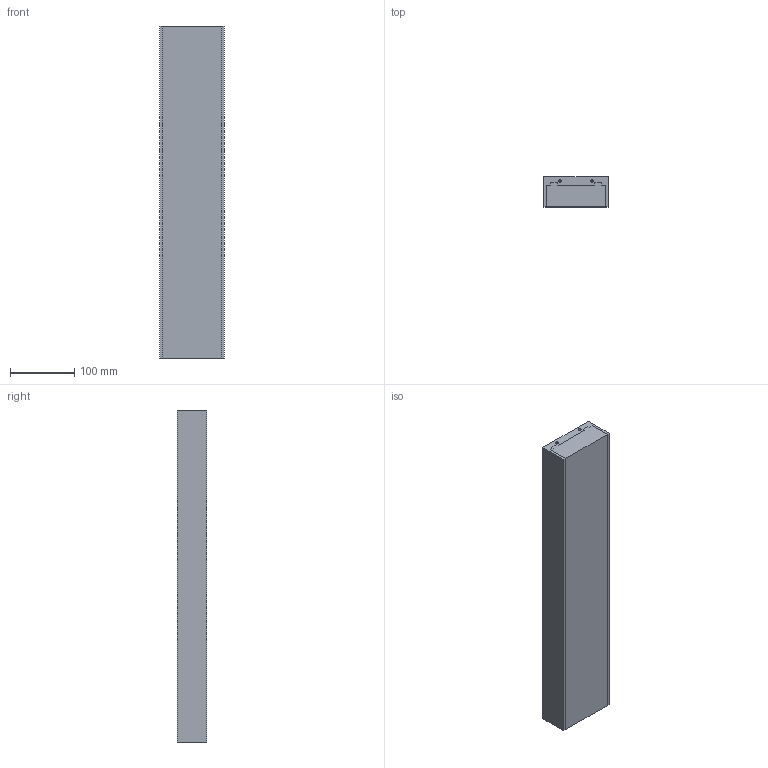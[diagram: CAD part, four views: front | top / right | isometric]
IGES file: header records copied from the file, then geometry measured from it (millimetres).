
Global section: file name: No Iges File Name specified; native system: AutoDesk Inventor R12.0; preprocessor: AutoDesk Inventor Iges Exporter R12.0; date: 20081121.155110; units: inch
Bounding box: 100 x 46 x 515.5 mm (x, y, z)
Volume: 2364406.6 mm3; surface area: 164492.4 mm2
Topology: 1 solids, 1 shells, 120 faces, 303 edges, 170 vertices
Faces by surface type: bspline 80, plane 20, cylinder 10, torus 10
